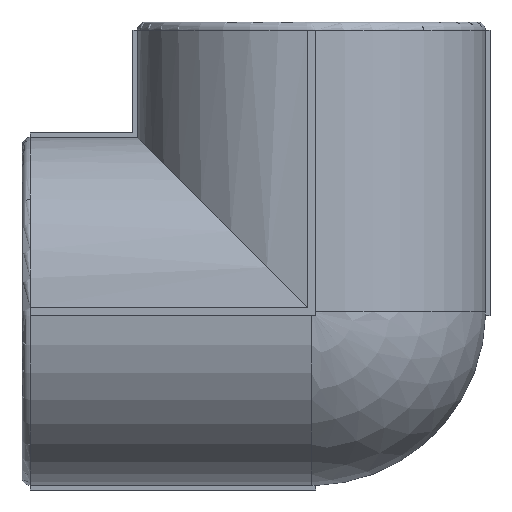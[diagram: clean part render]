
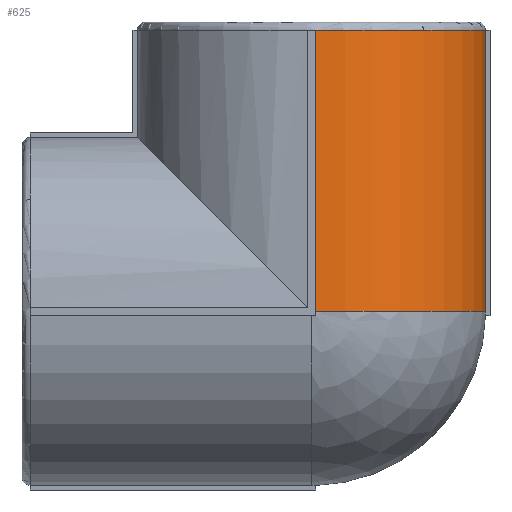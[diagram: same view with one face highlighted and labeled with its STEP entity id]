
A CAD part, left-side view. The second image highlights one B-rep face of the part: STEP entity #625.
In plain terms, the highlighted cylindrical face has radius 21.35 mm (diameter 42.7 mm), a partial arc.
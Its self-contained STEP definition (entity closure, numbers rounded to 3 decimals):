
#625=ADVANCED_FACE('',(#4870),#4872,.T.);
#4870=FACE_BOUND('',#4871,.T.);
#4871=EDGE_LOOP('',(#12331,#12332,#12333,#12334));
#4872=CYLINDRICAL_SURFACE('',#4873,21.35);
#4873=AXIS2_PLACEMENT_3D('',#4874,#4875,#4876);
#4874=CARTESIAN_POINT('',(0.,0.,0.));
#4875=DIRECTION('',(0.,0.,1.));
#4876=DIRECTION('',(-1.,0.,0.));
#12331=ORIENTED_EDGE('',*,*,#17597,.F.);
#12332=ORIENTED_EDGE('',*,*,#17555,.F.);
#12333=ORIENTED_EDGE('',*,*,#17596,.F.);
#12334=ORIENTED_EDGE('',*,*,#17591,.F.);
#17555=EDGE_CURVE('',#21599,#21601,#21602,.T.);
#17591=EDGE_CURVE('',#21660,#21662,#21663,.T.);
#17596=EDGE_CURVE('',#21662,#21599,#21670,.F.);
#17597=EDGE_CURVE('',#21601,#21660,#21671,.T.);
#21599=VERTEX_POINT('',#29833);
#21601=VERTEX_POINT('',#29838);
#21602=CIRCLE('',#29839,21.35);
#21660=VERTEX_POINT('',#29979);
#21662=VERTEX_POINT('',#29984);
#21663=CIRCLE('',#29985,21.35);
#21670=LINE('',#30074,#30075);
#21671=LINE('',#30077,#30078);
#29833=CARTESIAN_POINT('',(-0.5,-21.344,0.));
#29838=CARTESIAN_POINT('',(-21.344,-0.5,0.));
#29839=AXIS2_PLACEMENT_3D('',#29840,#29841,#29842);
#29840=CARTESIAN_POINT('',(0.,0.,0.));
#29841=DIRECTION('',(0.,0.,-1.));
#29842=DIRECTION('',(-0.023,-1.,0.));
#29979=CARTESIAN_POINT('',(-21.344,-0.5,34.5));
#29984=CARTESIAN_POINT('',(-0.5,-21.344,34.5));
#29985=AXIS2_PLACEMENT_3D('',#29986,#29987,#29988);
#29986=CARTESIAN_POINT('',(0.,0.,34.5));
#29987=DIRECTION('',(0.,0.,1.));
#29988=DIRECTION('',(-1.,-0.023,0.));
#30074=CARTESIAN_POINT('',(-0.5,-21.344,0.));
#30075=VECTOR('',#30076,1.);
#30076=DIRECTION('',(0.,0.,1.));
#30077=CARTESIAN_POINT('',(-21.344,-0.5,0.));
#30078=VECTOR('',#30079,1.);
#30079=DIRECTION('',(0.,0.,1.));
